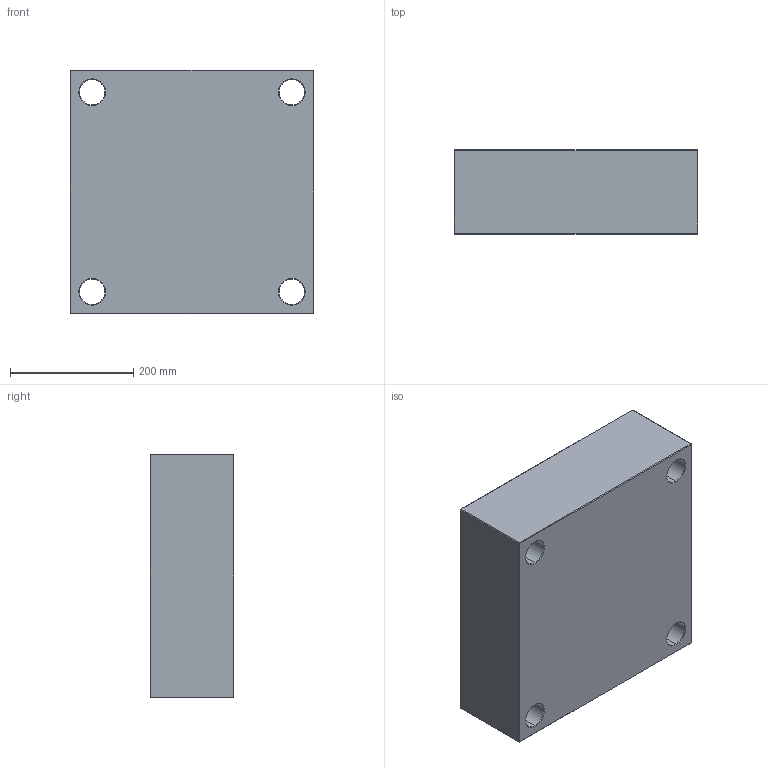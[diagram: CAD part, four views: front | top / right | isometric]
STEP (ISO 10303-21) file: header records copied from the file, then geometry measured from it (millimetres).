
FILE_DESCRIPTION (( 'STEP AP214' ), '1' );
FILE_NAME ('PCX-396x396x136.STEP', '2020-05-04T09:27:48', ( 'August' ), ( '' ), 'SwSTEP 2.0', 'SolidWorks 2018', '' );
FILE_SCHEMA (( 'AUTOMOTIVE_DESIGN' ));
Length unit declared in the file: millimetre
Products named in the file (1): PCX-396x396x136
Bounding box: 396 x 136 x 396 mm (x, y, z)
Volume: 20563735.9 mm3; surface area: 591541.6 mm2
Topology: 1 solids, 1 shells, 82 faces, 168 edges, 96 vertices
Faces by surface type: plane 34, cone 24, cylinder 24
Entity records: 2170 total; most frequent: DIRECTION 406, CARTESIAN_POINT 347, ORIENTED_EDGE 336, EDGE_CURVE 168, AXIS2_PLACEMENT_3D 155, EDGE_LOOP 98, VECTOR 96, VERTEX_POINT 96
